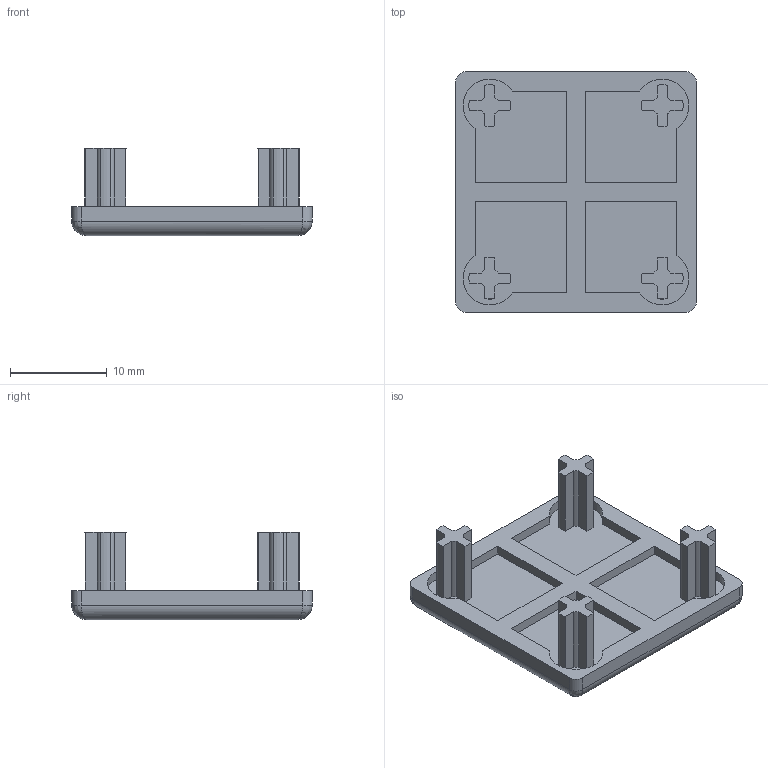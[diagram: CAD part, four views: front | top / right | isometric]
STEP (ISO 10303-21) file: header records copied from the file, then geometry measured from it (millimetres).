
FILE_DESCRIPTION( ( 'STEP AP214' ), '1' );
FILE_NAME( 'C:/Users/Segreteria/Desktop/CA.ADK.X.2525.stp', '2014-07-02T09:03:35', ( ' ' ), ( ' ' ), 'XStep 1.0', ' ', ' ' );
FILE_SCHEMA( ( 'CONFIG_CONTROL_DESIGN) ( )' ) );
Length unit declared in the file: metre
Products named in the file (1): MFI-034
Bounding box: 24.8 x 24.8 x 9 mm (x, y, z)
Volume: 1631.4 mm3; surface area: 2062 mm2
Topology: 1 solids, 1 shells, 110 faces, 292 edges, 188 vertices
Faces by surface type: plane 62, cylinder 44, bspline 4
Entity records: 4514 total; most frequent: CARTESIAN_POINT 861, ORIENTED_EDGE 576, DIRECTION 574, EDGE_CURVE 288, LINE 200, VECTOR 200, VERTEX_POINT 188, AXIS2_PLACEMENT_3D 187
